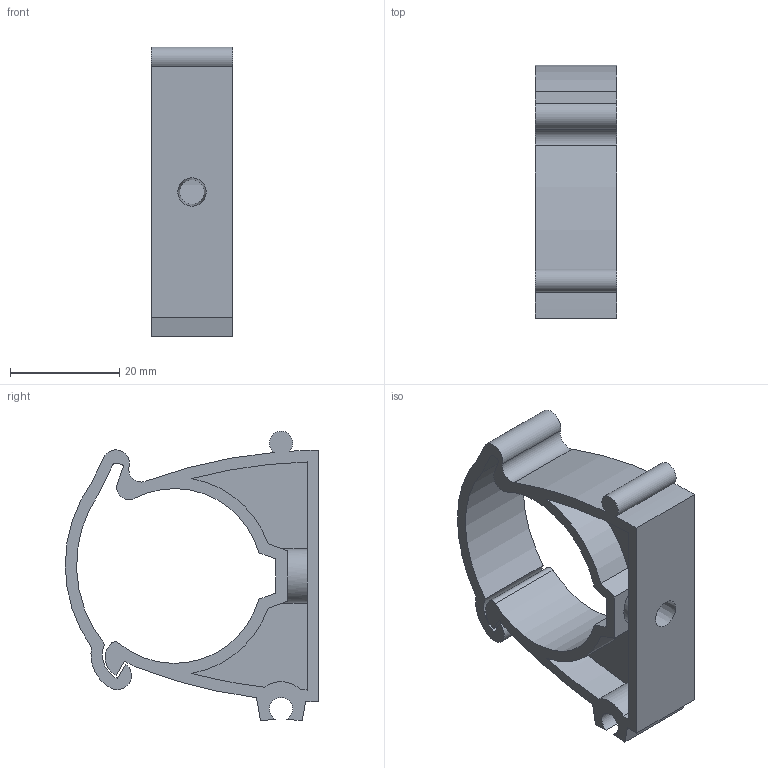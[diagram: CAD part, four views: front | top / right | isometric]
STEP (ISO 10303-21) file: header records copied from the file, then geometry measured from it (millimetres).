
FILE_DESCRIPTION(('STEP AP203'), '1');
FILE_NAME('ÂÐ.745222.004 - VT.KP.F.032', '', ('UNSPECIFIED'), ('UNSPECIFIED'), 'C3D Converter', 'C3D Toolkit', '');
FILE_SCHEMA(('CONFIG_CONTROL_DESIGN'));
Length unit declared in the file: millimetre
Products named in the file (1): ВР.745222.004
Bounding box: 15 x 46.41 x 53 mm (x, y, z)
Volume: 8600.9 mm3; surface area: 9061.8 mm2
Topology: 1 solids, 1 shells, 169 faces, 471 edges, 314 vertices
Faces by surface type: plane 67, extrusion 66, cylinder 35, cone 1
Entity records: 5548 total; most frequent: CARTESIAN_POINT 1362, ORIENTED_EDGE 940, DIRECTION 680, EDGE_CURVE 470, VECTOR 328, VERTEX_POINT 314, LINE 262, B_SPLINE_CURVE_WITH_KNOTS 198
